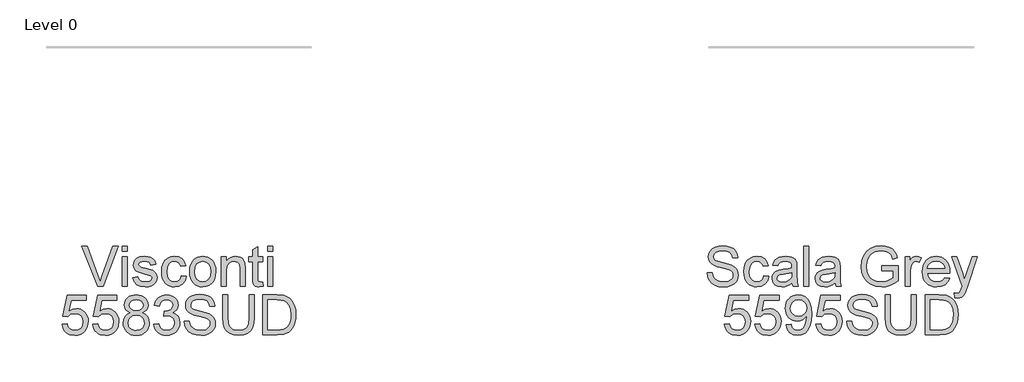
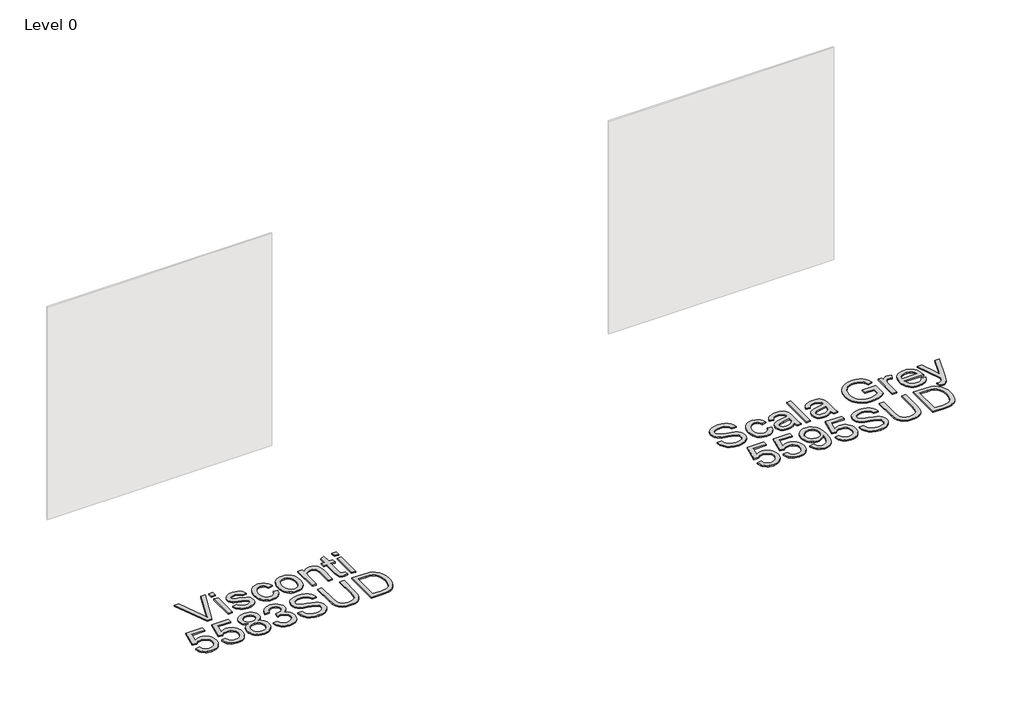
# One storey, part 7 of 12: 2 proxies.
"""IFC4 building model written with IfcOpenShell, lengths in millimetres."""

import ifcopenshell
import ifcopenshell.guid

model = None  # the IFC model being written
_history = None  # IfcOwnerHistory: only IFC2X3 demands one
_inside = {}  # id of a spatial element -> (the spatial element, [elements in it])
_under = {}  # id of a project, library or spatial element -> (it, [spatial elements below it])
_declared = {}  # id of a project -> (the project, [libraries it declares])
_typed = {}  # id of a type object -> (the type object, [elements of that type])
_made_of = {}  # id of a material, layer set ... -> (it, [elements and type objects made of it])


def new_model(schema):
    """Start an empty IFC model of exactly this schema.

    Asked for "IFC4X3", IfcOpenShell would pick the latest addendum, in which some entities
    have other attributes; the version numbers below select the first issue.
    IFC2X3 requires an IfcOwnerHistory on every rooted entity: one is made here for all.
    """
    global model, _history
    if schema == "IFC4X3":
        model = ifcopenshell.file(schema_version=(4, 3, 0, 0))
    else:
        model = ifcopenshell.file(schema=schema)
    _inside.clear()
    _under.clear()
    _declared.clear()
    _typed.clear()
    _made_of.clear()
    _history = None
    if model.schema == "IFC2X3":
        org = make("IfcOrganization", Name="unknown")
        user = make(
            "IfcPersonAndOrganization",
            ThePerson=make("IfcPerson", FamilyName="unknown"),
            TheOrganization=org,
        )
        app = make(
            "IfcApplication",
            ApplicationDeveloper=org,
            Version="unknown",
            ApplicationFullName="unknown",
            ApplicationIdentifier="unknown",
        )
        _history = make(
            "IfcOwnerHistory",
            OwningUser=user,
            OwningApplication=app,
            ChangeAction="ADDED",
            CreationDate=0,
        )
    return model


def make(cls, **values):
    """One entity of the class cls with the attributes given. An attribute that is None is left unset."""
    return model.create_entity(
        cls, **{name: value for name, value in values.items() if value is not None}
    )


def rooted(cls, **values):
    """An entity with a GlobalId (a new one), such as an element, a storey or a relation."""
    return make(cls, GlobalId=ifcopenshell.guid.new(), OwnerHistory=_history, **values)


def si_unit(unit_type, name, prefix=None):
    """IfcSIUnit, for example si_unit("LENGTHUNIT", "METRE", prefix="MILLI")."""
    return make("IfcSIUnit", UnitType=unit_type, Prefix=prefix, Name=name)


def assignment(units):
    """IfcUnitAssignment: the units of a project."""
    return None if units is None else make("IfcUnitAssignment", Units=units)


def point(xyz):
    """IfcCartesianPoint."""
    return None if xyz is None else make("IfcCartesianPoint", Coordinates=xyz)


def direction(xyz):
    """IfcDirection."""
    return None if xyz is None else make("IfcDirection", DirectionRatios=xyz)


def frame(location, z_axis=None, x_axis=None):
    """IfcAxis2Placement3D, a coordinate frame: its origin and axes. An axis left out is left unset."""
    return make(
        "IfcAxis2Placement3D",
        Location=point(location),
        Axis=direction(z_axis),
        RefDirection=direction(x_axis),
    )


def origin():
    """The frame at (0, 0, 0) with its axes left unset."""
    return frame((0.0, 0.0, 0.0))


def origin_with_axes():
    """The frame at (0, 0, 0) with the z axis (0, 0, 1) and the x axis (1, 0, 0) written out."""
    return frame((0.0, 0.0, 0.0), z_axis=(0.0, 0.0, 1.0), x_axis=(1.0, 0.0, 0.0))


def place(relative_to, where):
    """IfcLocalPlacement: puts the frame where relative to a parent placement (None: the world)."""
    return make(
        "IfcLocalPlacement", PlacementRelTo=relative_to, RelativePlacement=where
    )


def context(
    kind, dimensions, precision=None, world=None, true_north=None, identifier=None
):
    """IfcGeometricRepresentationContext, for example the 3D "Model" context."""
    return make(
        "IfcGeometricRepresentationContext",
        ContextIdentifier=identifier,
        ContextType=kind,
        CoordinateSpaceDimension=dimensions,
        Precision=precision,
        WorldCoordinateSystem=world,
        TrueNorth=true_north,
    )


def project(units=None, contexts=None):
    """IfcProject with its units and contexts."""
    return rooted(
        "IfcProject",
        Name="project",
        RepresentationContexts=contexts,
        UnitsInContext=assignment(units),
    )


def spatial(cls, under=None, at=None, **own):
    """A site, building, storey or space (cls), placed at a placement, below another one or the project."""
    s = rooted(cls, ObjectPlacement=at, **own)
    if under is not None:
        _under.setdefault(under.id(), (under, []))[1].append(s)
    return s


def polyline(points):
    """IfcPolyline through the points."""
    return make("IfcPolyline", Points=[point(p) for p in points])


def outline(outer, holes=None, kind="AREA"):
    """IfcArbitraryClosedProfileDef: a profile drawn as a closed curve; with holes, ...WithVoids."""
    if holes is None:
        return make("IfcArbitraryClosedProfileDef", ProfileType=kind, OuterCurve=outer)
    return make(
        "IfcArbitraryProfileDefWithVoids",
        ProfileType=kind,
        OuterCurve=outer,
        InnerCurves=holes,
    )


def extrude(swept, where, along, depth):
    """IfcExtrudedAreaSolid: the profile swept, set in the frame where, extruded along a direction by depth."""
    return make(
        "IfcExtrudedAreaSolid",
        SweptArea=swept,
        Position=where,
        ExtrudedDirection=direction(along),
        Depth=depth,
    )


def shape(context_of_items, identifier, shape_type, items):
    """IfcShapeRepresentation: the items that make up one representation, for example the "Body"."""
    return make(
        "IfcShapeRepresentation",
        ContextOfItems=context_of_items,
        RepresentationIdentifier=identifier,
        RepresentationType=shape_type,
        Items=items,
    )


def made_of(thing, what):
    """Note that an element or type object is made of a material, layer set ...; save() writes the relation."""
    if what is not None:
        _made_of.setdefault(what.id(), (what, []))[1].append(thing)
    return thing


def element(
    cls,
    number,
    at=None,
    inside=None,
    cuts=None,
    type_object=None,
    material=None,
    context=None,
    identifier="Body",
    shape_type=None,
    held_by="IfcProductDefinitionShape",
    body=None,
    shapes=None,
    **own,
):
    """One element of the class cls, such as IfcWall. Its Tag is "e" and its number.

    at: its placement. inside: the storey or other place that contains it. cuts: it is an
    opening in that element (IfcRelVoidsElement). A single representation is given by context,
    identifier, shape_type and body (its items); several are given by shapes. held_by: the class
    of the entity that holds the representations. save() writes the other relations.
    """
    e = rooted(cls, Tag="e%d" % number, ObjectPlacement=at, **own)
    if body is not None:
        shapes = [shape(context, identifier, shape_type, body)]
    if shapes is not None:
        e.Representation = make(held_by, Representations=shapes)
    if inside is not None:
        _inside.setdefault(inside.id(), (inside, []))[1].append(e)
    if cuts is not None:
        rooted(
            "IfcRelVoidsElement", RelatingBuildingElement=cuts, RelatedOpeningElement=e
        )
    if type_object is not None:
        _typed.setdefault(type_object.id(), (type_object, []))[1].append(e)
    return made_of(e, material)


def aggregate(whole, parts):
    """IfcRelAggregates: a whole, such as a stair, and the parts it consists of."""
    return rooted("IfcRelAggregates", RelatingObject=whole, RelatedObjects=parts)


def save(model, path):
    """Write the relations noted so far, then the file.

    IfcRelAggregates (storeys below a building ...), IfcRelContainedInSpatialStructure (elements
    in a storey), IfcRelDefinesByType, IfcRelAssociatesMaterial and IfcRelDeclares: one each for
    every whole, place, type object, material and project.
    """
    for whole, parts in _under.values():
        aggregate(whole, parts)
    for where, things in _inside.values():
        rooted(
            "IfcRelContainedInSpatialStructure",
            RelatedElements=things,
            RelatingStructure=where,
        )
    for kind, things in _typed.values():
        rooted("IfcRelDefinesByType", RelatedObjects=things, RelatingType=kind)
    for what, things in _made_of.values():
        rooted("IfcRelAssociatesMaterial", RelatedObjects=things, RelatingMaterial=what)
    for by, libraries in _declared.values():
        rooted("IfcRelDeclares", RelatingContext=by, RelatedDefinitions=libraries)
    model.write(path)


model = new_model("IFC4")

# Units and contexts
model_context = context("Model", 3, world=origin())
ifc_project = project(units=[si_unit("LENGTHUNIT", "METRE", prefix="MILLI")], contexts=[model_context])

# Site, building, storey
site = spatial("IfcSite", under=ifc_project)
building = spatial("IfcBuilding", under=site)
storey = spatial("IfcBuildingStorey", under=building, Name="Level 0", Elevation=0.0)

# Proxies
placement = place(None, origin())
element("IfcBuildingElementProxy", 1, Name="300mm Arial", ObjectType="300mm Arial", at=placement, inside=storey, context=model_context, shape_type="SweptSolid", body=[
    extrude(outline(polyline([(-63.2551547, -17012.860494), (-183.1846851, -16711.4915635), (-142.8648184, -16711.4915635), (-62.5929671, -16928.6155171), (-46.3325829, -16977.5438224), (-30.2929279, -16928.6155171), (50.1996526, -16711.4915635), (90.5195193, -16711.4915635), (-24.3332396, -17012.860494), (-63.2551547, -17012.860494)])), origin_with_axes(), (0.0, 0.0, 1.0), 10.0),
    extrude(outline(polyline([(120.8329957, -17012.860494), (120.8329957, -16791.5426857), (158.504112, -16791.5426857), (158.504112, -17012.860494), (120.8329957, -17012.860494)])), origin_with_axes(), (0.0, 0.0, 1.0), 10.0),
    extrude(outline(polyline([(120.8329957, -16749.1626798), (120.8329957, -16711.4915635), (158.504112, -16711.4915635), (158.504112, -16749.1626798), (120.8329957, -16749.1626798)])), origin_with_axes(), (0.0, 0.0, 1.0), 10.0),
    extrude(outline(polyline([(200.8841179, -16946.9360404), (238.5552342, -16942.2271509), (244.4965284, -16958.3403823), (255.9928407, -16970.1861825), (273.1177476, -16977.470246), (295.9448254, -16979.8982672), (318.4959917, -16977.6725811), (334.3517057, -16970.9955229), (343.7326966, -16961.3202265), (346.8596935, -16950.0998256), (343.7143025, -16940.4981055), (334.2781293, -16933.1772538), (295.503367, -16922.4350996), (238.7759634, -16904.0042116), (224.4193685, -16894.7427824), (214.0175051, -16882.4831149), (207.6991318, -16868.0069584), (205.5930074, -16852.0960621), (207.2852646, -16837.5003439), (212.3620361, -16824.0266659), (220.3634695, -16812.2084568), (230.8297123, -16802.5791455), (254.7788302, -16791.4323211), (287.1892339, -16786.8337961), (311.7085689, -16788.6824032), (333.0273305, -16794.2282242), (350.1706315, -16802.9286334), (362.1635845, -16814.2410048), (370.1098356, -16829.0022698), (375.1130308, -16848.0493601), (337.4419145, -16852.7582497), (332.6870397, -16840.9032524), (323.2784577, -16831.972917), (309.1241979, -16826.3719136), (290.1322899, -16824.5049125), (268.5008286, -16826.2891401), (254.0798544, -16831.6418232), (245.9680564, -16839.3673451), (243.2641237, -16848.2700893), (247.752284, -16859.2329728), (261.8053763, -16867.5471059), (294.2525682, -16875.5669334), (349.5452321, -16893.2988455), (364.1501473, -16901.7785255), (375.2233954, -16913.3852025), (382.2039562, -16928.1556646), (384.5308099, -16946.1267001), (381.799286, -16964.7047408), (373.6047146, -16982.1791356), (360.2597952, -16997.1795239), (342.0772276, -17008.3355454), (320.1146725, -17015.260924), (295.4297906, -17017.5693835), (257.4459746, -17013.1180114), (229.7260663, -16999.763895), (211.2216019, -16977.654187), (200.8841179, -16946.9360404)])), origin_with_axes(), (0.0, 0.0, 1.0), 10.0),
    extrude(outline(polyline([(568.1775018, -16932.8093718), (605.8486182, -16937.5182614), (595.3455872, -16971.0231141), (575.6087181, -16996.3425924), (548.4958151, -17012.2626857), (515.8646821, -17017.5693835), (494.7367593, -17015.7184772), (475.7931358, -17010.1657584), (459.0338117, -17000.9112269), (444.4587869, -16987.9548829), (432.6612711, -16971.5404481), (424.2344742, -16951.9116444), (419.178396, -16929.0684718), (417.4930366, -16903.0109302), (420.3717132, -16869.4876834), (429.0077431, -16840.4342028), (443.5390819, -16816.9725286), (464.1036854, -16800.2247008), (488.7057938, -16790.1815223), (515.3496473, -16786.8337961), (547.180637, -16791.4323211), (572.628874, -16805.2278959), (590.885018, -16827.4847566), (601.1397286, -16857.4671392), (563.4686123, -16862.1760288), (556.6352042, -16845.7409006), (545.9942175, -16833.9594797), (532.1342634, -16826.8685543), (515.6439529, -16824.5049125), (491.2993619, -16829.1586197), (471.9763601, -16843.1197414), (459.3672047, -16867.1424357), (455.1641529, -16901.9808606), (459.2752342, -16937.2883351), (471.6084781, -16961.3938029), (490.581992, -16975.2721511), (514.6138833, -16979.8982672), (534.1208261, -16977.0103936), (550.1144959, -16968.3467726), (561.748764, -16953.6866751), (568.1775018, -16932.8093718)])), origin_with_axes(), (0.0, 0.0, 1.0), 10.0),
    extrude(outline(polyline([(629.3930658, -16902.2015898), (631.4302124, -16873.5389839), (637.541652, -16848.8403064), (647.7273848, -16828.1055575), (661.9874106, -16811.334737), (676.3440055, -16800.6155754), (692.1905224, -16792.9590314), (709.5269614, -16788.3651049), (728.3533225, -16786.8337961), (749.136356, -16788.698498), (767.9282282, -16794.2926036), (784.728939, -16803.6161129), (799.5384886, -16816.669026), (811.6257114, -16833.0098843), (820.259442, -16852.1972296), (825.4396803, -16874.2310619), (827.1664265, -16899.1113811), (824.1130059, -16937.1687735), (814.9527442, -16966.1394806), (799.9523559, -16987.8353213), (779.3785553, -17004.0681143), (754.9419937, -17014.1940662), (728.3533225, -17017.5693835), (707.2667864, -17015.7115794), (688.3001703, -17010.1381672), (671.4534742, -17000.8491468), (656.7266981, -16987.8445183), (644.768234, -16971.3450108), (636.2264739, -16951.5713536), (631.1014179, -16928.5235466), (629.3930658, -16902.2015898)]), holes=[polyline([(667.0641821, -16902.1280134), (671.4235838, -16936.2214773), (684.5017887, -16960.5108861), (704.1834755, -16975.0514219), (728.3533225, -16979.8982672), (752.412805, -16975.0238308), (772.0577036, -16960.4005215), (785.1359085, -16935.789216), (789.4953101, -16900.950791), (785.1083174, -16867.8506085), (771.947339, -16843.8922936), (752.2748493, -16829.3517577), (728.3533225, -16824.5049125), (704.1834755, -16829.3333636), (684.5017887, -16843.8187172), (671.4235838, -16868.0529436), (667.0641821, -16902.1280134)])]), origin_with_axes(), (0.0, 0.0, 1.0), 10.0),
    extrude(outline(polyline([(869.5464323, -17012.860494), (869.5464323, -16791.5426857), (907.2175486, -16791.5426857), (907.2175486, -16822.4447733), (920.3049506, -16806.8649708), (936.0227088, -16795.7365404), (954.3708233, -16789.0594822), (975.3492941, -16786.8337961), (993.9181378, -16788.6272209), (1010.923483, -16794.0074951), (1025.105334, -16802.303234), (1035.2036947, -16812.8430532), (1046.497672, -16840.5445674), (1048.4842347, -16876.964885), (1048.4842347, -17012.860494), (1010.8131184, -17012.860494), (1010.8131184, -16882.0416565), (1006.4721109, -16848.7115477), (1000.4664373, -16838.7879309), (991.1314317, -16831.0900002), (979.1660698, -16826.1511844), (965.2693274, -16824.5049125), (943.2056048, -16828.2021265), (924.3976378, -16839.2937687), (916.8813488, -16848.3482643), (911.5125709, -16860.7228949), (907.2175486, -16895.4325611), (907.2175486, -17012.860494), (869.5464323, -17012.860494)])), origin_with_axes(), (0.0, 0.0, 1.0), 10.0),
    extrude(outline(polyline([(1180.3331418, -16981.4433716), (1185.0420314, -17013.96414), (1156.8622705, -17017.5693835), (1138.7808705, -17016.005885), (1125.2979953, -17011.3153896), (1115.7698517, -17004.0865084), (1109.5526459, -16994.9078526), (1106.1313434, -16979.1441091), (1104.9909092, -16952.1599648), (1104.9909092, -16829.213802), (1076.737572, -16829.213802), (1076.737572, -16791.5426857), (1104.9909092, -16791.5426857), (1104.9909092, -16737.758338), (1142.6620255, -16715.6118419), (1142.6620255, -16791.5426857), (1180.3331418, -16791.5426857), (1180.3331418, -16829.213802), (1142.6620255, -16829.213802), (1142.6620255, -16951.0563188), (1144.6485883, -16970.4804881), (1151.0865232, -16977.3598814), (1163.9256048, -16979.8982672), (1180.3331418, -16981.4433716)])), origin_with_axes(), (0.0, 0.0, 1.0), 10.0),
    extrude(outline(polyline([(1218.0042581, -16749.1626798), (1218.0042581, -16711.4915635), (1255.6753744, -16711.4915635), (1255.6753744, -16749.1626798), (1218.0042581, -16749.1626798)])), origin_with_axes(), (0.0, 0.0, 1.0), 10.0),
    extrude(outline(polyline([(1218.0042581, -17012.860494), (1218.0042581, -16791.5426857), (1255.6753744, -16791.5426857), (1255.6753744, -17012.860494), (1218.0042581, -17012.860494)])), origin_with_axes(), (0.0, 0.0, 1.0), 10.0),
    extrude(outline(polyline([(-333.5748447, -17298.7338254), (-295.9037284, -17294.0249358), (-288.9875469, -17316.6404815), (-276.9210175, -17332.8364863), (-259.7593224, -17342.5761621), (-237.557644, -17345.8227207), (-210.5551055, -17341.3069693), (-190.3215958, -17327.7597148), (-177.6848493, -17306.7444558), (-173.4726004, -17279.8246908), (-177.4181348, -17254.4776213), (-189.254738, -17235.0902402), (-209.0743805, -17222.7845875), (-236.9690328, -17218.6827032), (-255.2435709, -17220.3197781), (-270.0416242, -17225.2310027), (-291.1948389, -17242.2271509), (-328.8659552, -17237.5182614), (-295.9037284, -17082.1249066), (-149.9281527, -17082.1249066), (-149.9281527, -17119.7960229), (-265.4430992, -17119.7960229), (-281.5563306, -17202.790201), (-254.6457627, -17186.4562404), (-226.4476077, -17181.0115869), (-208.1017925, -17182.6992456), (-191.2504978, -17187.7622215), (-175.8937238, -17196.2005148), (-162.0314704, -17208.0141254), (-150.5558514, -17222.4810848), (-142.3589807, -17238.8794248), (-137.4408583, -17257.2091452), (-135.8014841, -17277.470246), (-141.7059901, -17315.1413624), (-149.0866227, -17331.9351754), (-159.4195082, -17347.3678251), (-175.0728871, -17363.1729553), (-193.3382282, -17374.4623341), (-214.2155314, -17381.2359613), (-237.7047968, -17383.4938371), (-274.7045285, -17377.6904986), (-290.3831992, -17370.4363255), (-304.1810733, -17360.2804832), (-315.6612908, -17347.7288093), (-324.3869919, -17333.2871418), (-333.5748447, -17298.7338254)])), origin_with_axes(), (0.0, 0.0, 1.0), 10.0),
    extrude(outline(polyline([(-102.8392574, -17298.7338254), (-65.1681411, -17294.0249358), (-58.2519595, -17316.6404815), (-46.1854301, -17332.8364863), (-29.023735, -17342.5761621), (-6.8220566, -17345.8227207), (20.1804818, -17341.3069693), (40.4139916, -17327.7597148), (53.0507381, -17306.7444558), (57.2629869, -17279.8246908), (53.3174525, -17254.4776213), (41.4808494, -17235.0902402), (21.6612069, -17222.7845875), (-6.2334454, -17218.6827032), (-24.5079835, -17220.3197781), (-39.3060368, -17225.2310027), (-60.4592515, -17242.2271509), (-98.1303678, -17237.5182614), (-65.1681411, -17082.1249066), (80.8074346, -17082.1249066), (80.8074346, -17119.7960229), (-34.7075119, -17119.7960229), (-50.8207432, -17202.790201), (-23.9101753, -17186.4562404), (4.2879796, -17181.0115869), (22.6337949, -17182.6992456), (39.4850895, -17187.7622215), (54.8418636, -17196.2005148), (68.704117, -17208.0141254), (80.179736, -17222.4810848), (88.3766067, -17238.8794248), (93.2947291, -17257.2091452), (94.9341033, -17277.470246), (89.0295972, -17315.1413624), (81.6489647, -17331.9351754), (71.3160792, -17347.3678251), (55.6627003, -17363.1729553), (37.3973592, -17374.4623341), (16.520056, -17381.2359613), (-6.9692094, -17383.4938371), (-43.9689411, -17377.6904986), (-59.6476119, -17370.4363255), (-73.4454859, -17360.2804832), (-84.9257035, -17347.7288093), (-93.6514045, -17333.2871418), (-102.8392574, -17298.7338254)])), origin_with_axes(), (0.0, 0.0, 1.0), 10.0),
    extrude(outline(polyline([(182.7843237, -17212.7965913), (162.6151933, -17202.8637774), (148.4609335, -17189.3992964), (140.1008152, -17172.6790597), (137.3141091, -17152.9789789), (138.8316223, -17137.6153071), (143.384162, -17123.5300252), (150.9717282, -17110.7231332), (161.5943208, -17099.1946312), (174.7415036, -17089.6664875), (189.9028403, -17082.8606706), (226.2679755, -17077.4160171), (262.8538399, -17082.9894293), (278.1807236, -17089.9561946), (291.5302415, -17099.709666), (302.3459721, -17111.4634957), (310.071494, -17124.4313361), (314.7068072, -17138.613187), (316.2519115, -17154.0090485), (313.5019936, -17173.0745329), (305.2522399, -17189.509661), (291.4106798, -17202.8913686), (271.8853429, -17212.7965913), (295.0711057, -17224.7435591), (311.9476922, -17242.3375155), (322.239191, -17264.732332), (325.6696906, -17291.0818799), (323.9682364, -17309.8714528), (318.8638737, -17327.0975272), (310.3566026, -17342.7601031), (298.446423, -17356.8591806), (283.7587343, -17368.5118428), (266.918936, -17376.8351729), (247.927028, -17381.829171), (226.7830103, -17383.4938371), (205.6389926, -17381.8222732), (186.6470846, -17376.8075818), (169.8072863, -17368.4497627), (155.1195977, -17356.748816), (143.2094181, -17342.5508703), (134.7021469, -17326.702054), (129.5977842, -17309.2023674), (127.89633, -17290.0518103), (131.4647854, -17262.6813898), (142.1701514, -17240.1670117), (159.4606052, -17223.2812282), (182.7843237, -17212.7965913)]), holes=[polyline([(165.5674463, -17288.7274351), (171.8582284, -17317.0911369), (180.5678347, -17329.2588339), (194.1150891, -17338.317928), (210.3386851, -17343.9465226), (227.0773159, -17345.8227207), (252.718691, -17341.8771864), (271.9589193, -17330.0405832), (283.9886606, -17312.1155329), (287.9985743, -17289.9046575), (283.8599019, -17267.316703), (271.4438845, -17248.9961796), (251.7621978, -17236.8560738), (225.8265171, -17232.8093718), (200.543827, -17236.8008915), (181.4967367, -17248.7754504), (169.5497689, -17266.7464859), (165.5674463, -17288.7274351)]), polyline([(174.9852254, -17154.0826249), (178.3237545, -17170.52695), (188.3393418, -17183.6603373), (204.7376818, -17192.268776), (227.2244687, -17195.1382555), (249.1870238, -17192.2871701), (265.3370434, -17183.7339137), (275.2698573, -17171.0419848), (278.5807952, -17155.774882), (275.1594927, -17139.9283651), (264.895585, -17126.822569), (248.5248362, -17118.0209923), (226.7830103, -17115.0871334), (204.9032287, -17117.9566129), (188.560071, -17126.5650516), (178.3789368, -17139.1834041), (174.9852254, -17154.0826249)])]), origin_with_axes(), (0.0, 0.0, 1.0), 10.0),
    extrude(outline(polyline([(358.6319174, -17298.7338254), (396.3030337, -17294.0249358), (404.7367284, -17317.6981422), (417.0883664, -17333.6826149), (433.964953, -17342.7876943), (455.9734933, -17345.8227207), (481.7988094, -17341.6472601), (501.7380135, -17329.1208782), (514.4851246, -17310.4324728), (518.7341617, -17287.7709419), (514.5219128, -17266.2590422), (501.8851663, -17248.8122386), (482.7553026, -17237.2515469), (459.0637021, -17233.397983), (432.6497748, -17237.5182614), (436.8436296, -17199.8471451), (442.8768943, -17200.2886035), (465.4464547, -17197.5846708), (485.6247821, -17189.4728728), (499.8618153, -17175.7508744), (504.6074931, -17156.2163404), (501.1677964, -17139.9467592), (490.8487065, -17126.7489926), (475.1033571, -17118.0025982), (455.3848821, -17115.0871334), (435.629619, -17118.0301893), (419.4795994, -17126.8593572), (407.6889814, -17141.574637), (401.0119232, -17162.1760288), (363.3408069, -17157.4671392), (374.4324491, -17123.6403898), (394.1693181, -17098.3852908), (421.1718566, -17082.6583355), (454.0605069, -17077.4160171), (477.7429104, -17080.0003881), (499.4939333, -17087.7535011), (517.8328508, -17099.9855775), (531.2789377, -17116.0068384), (539.5286915, -17134.4653175), (542.2786094, -17154.0090485), (539.6666472, -17172.2192072), (531.8307607, -17188.7371088), (518.8813145, -17202.8085951), (500.9286731, -17213.6795081), (524.509909, -17223.2076518), (541.9843038, -17239.4312477), (552.8000344, -17261.4673793), (556.405278, -17288.4331295), (554.6026562, -17307.5445992), (549.1947909, -17325.1477526), (540.181682, -17341.2425899), (527.5633296, -17355.829111), (512.1904607, -17367.9324287), (494.9138025, -17376.5776555), (475.733355, -17381.7647917), (454.6491181, -17383.4938371), (435.5928308, -17382.0177105), (418.2288006, -17377.589331), (402.5570276, -17370.2086985), (388.5775118, -17359.875813), (376.8558717, -17347.1976797), (367.957726, -17332.781304), (361.8830745, -17316.6266859), (358.6319174, -17298.7338254)])), origin_with_axes(), (0.0, 0.0, 1.0), 10.0),
    extrude(outline(polyline([(589.3675048, -17275.1893777), (627.0386211, -17275.1893777), (631.3612345, -17296.0942721), (639.1787269, -17312.8972822), (651.3740151, -17326.2330045), (668.8300157, -17336.7360355), (690.1671714, -17343.5510494), (714.0059247, -17345.8227207), (734.9935926, -17344.1028724), (753.3692982, -17338.9433274), (768.259322, -17330.7763471), (778.7899441, -17320.0341929), (785.0531351, -17307.700949), (787.1408654, -17294.7606998), (785.5773669, -17282.1515444), (780.8868715, -17271.2530403), (771.3587278, -17261.9548229), (755.2822846, -17254.1465276), (700.4310791, -17239.7623415), (664.4246288, -17230.2433949), (641.3860189, -17221.1843008), (622.6332342, -17208.510766), (609.3434971, -17193.1516928), (601.4248372, -17175.4381747), (598.7852838, -17155.7013056), (602.0502366, -17133.637583), (611.8450947, -17113.0637824), (627.9123408, -17095.6261758), (649.9944576, -17082.9710352), (676.5003553, -17075.2731044), (705.8389444, -17072.7071275), (737.6239488, -17075.3926661), (765.4358277, -17083.4492818), (788.2812996, -17096.7114277), (805.1670831, -17115.013557), (815.8540551, -17137.2152354), (820.1030921, -17162.1760288), (782.4319758, -17162.1760288), (775.5157943, -17139.6984389), (761.0948201, -17123.4748429), (738.5620479, -17113.6523936), (707.3104724, -17110.3782438), (675.3231329, -17113.6156054), (653.3789719, -17123.3276901), (640.6870431, -17137.6199056), (636.4564002, -17154.5976597), (639.4546384, -17169.0738162), (648.4493532, -17180.7172813), (669.7129325, -17191.1283418), (709.9592228, -17201.7601314), (751.4931, -17211.8584922), (776.6194403, -17220.669266), (798.0945518, -17234.3360821), (813.076546, -17251.2034716), (821.8781228, -17271.0874934), (824.8119817, -17293.8042066), (821.4366644, -17317.0267576), (811.3107125, -17338.869751), (794.8479932, -17357.668521), (772.4623738, -17371.7584014), (745.5426088, -17380.5599781), (715.4774527, -17383.4938371), (678.5696915, -17380.3300519), (648.1918358, -17370.8386964), (623.9943976, -17354.9829824), (605.627889, -17332.7261217), (593.837271, -17305.6132187), (589.3675048, -17275.1893777)])), origin_with_axes(), (0.0, 0.0, 1.0), 10.0),
    extrude(outline(polyline([(1079.0920167, -17077.4160171), (1116.7631331, -17077.4160171), (1116.7631331, -17251.277048), (1114.2063532, -17291.9923878), (1106.5360136, -17323.3451308), (1092.2070099, -17347.533372), (1069.6742377, -17366.7552063), (1038.8825147, -17379.3091794), (999.7766586, -17383.4938371), (961.5261281, -17379.8518053), (930.9459373, -17368.92571), (908.026889, -17351.0926303), (892.7597862, -17326.7296452), (884.1789387, -17294.052527), (881.3186561, -17251.277048), (881.3186561, -17077.4160171), (918.9897724, -17077.4160171), (918.9897724, -17249.9526728), (920.8475765, -17283.8070134), (926.4209887, -17307.3790523), (936.5193495, -17323.7038158), (951.9519992, -17335.8163305), (972.0751444, -17343.3211232), (996.2449914, -17345.8227207), (1034.5599012, -17340.8747079), (1048.9027005, -17334.6896919), (1060.0357294, -17326.0306694), (1068.3728551, -17313.8537754), (1074.3279449, -17297.1151446), (1079.0920167, -17249.9526728), (1079.0920167, -17077.4160171)])), origin_with_axes(), (0.0, 0.0, 1.0), 10.0),
    extrude(outline(polyline([(1182.6875866, -17378.7849475), (1182.6875866, -17077.4160171), (1286.6510384, -17077.4160171), (1340.4353861, -17081.7570246), (1364.4580804, -17090.12634), (1384.7283783, -17103.3149095), (1405.5688934, -17126.270746), (1420.4129319, -17154.8183889), (1429.2972821, -17188.406015), (1432.2587321, -17226.4818015), (1430.2537752, -17258.8278259), (1424.2389046, -17287.2926953), (1415.0786429, -17311.5269217), (1403.6375129, -17331.1810173), (1390.4673375, -17346.6964405), (1376.1199397, -17358.5146496), (1359.6480233, -17367.2794381), (1340.1042923, -17373.6345996), (1291.6542336, -17378.7849475), (1182.6875866, -17378.7849475)]), holes=[polyline([(1220.3587029, -17341.1138312), (1287.0189204, -17341.1138312), (1314.591676, -17339.7526678), (1335.5057674, -17335.6691777), (1351.287905, -17329.1024841), (1363.464799, -17320.2917103), (1376.552201, -17303.9853408), (1386.3838473, -17282.8781114), (1392.5366737, -17256.8780514), (1394.5876158, -17225.8931903), (1390.568505, -17184.8375597), (1378.5111726, -17154.5240833), (1360.696487, -17133.7019623), (1339.4053165, -17121.1203981), (1317.737067, -17116.5954496), (1285.9888508, -17115.0871334), (1220.3587029, -17115.0871334), (1220.3587029, -17341.1138312)])]), origin_with_axes(), (0.0, 0.0, 1.0), 10.0),
])
element("IfcBuildingElementProxy", 2, Name="300mm Arial", ObjectType="300mm Arial", at=placement, inside=storey, context=model_context, shape_type="SweptSolid", body=[
    extrude(outline(polyline([(4536.930693, -16909.2649241), (4574.6018093, -16909.2649241), (4578.9244227, -16930.1698185), (4586.7419151, -16946.9728286), (4598.9372033, -16960.308551), (4616.3932039, -16970.8115819), (4637.7303596, -16977.6265959), (4661.5691129, -16979.8982672), (4682.5567808, -16978.1784189), (4700.9324864, -16973.0188739), (4715.8225102, -16964.8518936), (4726.3531323, -16954.1097394), (4732.6163233, -16941.7764955), (4734.7040536, -16928.8362463), (4733.1405551, -16916.2270909), (4728.4500597, -16905.3285868), (4718.921916, -16896.0303694), (4702.8454728, -16888.222074), (4647.9942673, -16873.837888), (4611.987817, -16864.3189414), (4588.9492071, -16855.2598472), (4570.1964224, -16842.5863125), (4556.9066853, -16827.2272392), (4548.9880254, -16809.5137211), (4546.348472, -16789.7768521), (4549.6134247, -16767.7131294), (4559.4082829, -16747.1393289), (4575.475529, -16729.7017223), (4597.5576458, -16717.0465817), (4624.0635435, -16709.3486509), (4653.4021326, -16706.782674), (4685.187137, -16709.4682126), (4712.9990159, -16717.5248283), (4735.8444878, -16730.7869742), (4752.7302713, -16749.0891034), (4763.4172433, -16771.2907818), (4767.6662803, -16796.2515752), (4729.995164, -16796.2515752), (4723.0789825, -16773.7739853), (4708.6580083, -16757.5503893), (4686.1252361, -16747.7279401), (4654.8736606, -16744.4537903), (4622.8863211, -16747.6911519), (4600.9421601, -16757.4032365), (4588.2502313, -16771.695452), (4584.0195883, -16788.6732061), (4587.0178266, -16803.1493626), (4596.0125414, -16814.7928278), (4617.2761207, -16825.2038882), (4657.522411, -16835.8356779), (4699.0562882, -16845.9340387), (4724.1826285, -16854.7448125), (4745.65774, -16868.4116286), (4760.6397342, -16885.2790181), (4769.441311, -16905.1630399), (4772.3751699, -16927.8797531), (4768.9998526, -16951.102304), (4758.8739007, -16972.9452975), (4742.4111814, -16991.7440675), (4720.025562, -17005.8339479), (4693.105797, -17014.6355246), (4663.0406409, -17017.5693835), (4626.1328797, -17014.4055984), (4595.755024, -17004.9142429), (4571.5575858, -16989.0585289), (4553.1910772, -16966.8016682), (4541.4004592, -16939.6887651), (4536.930693, -16909.2649241)])), origin_with_axes(), (0.0, 0.0, 1.0), 10.0),
    extrude(outline(polyline([(4965.4396409, -16932.8093718), (5003.1107573, -16937.5182614), (4992.6077263, -16971.0231141), (4972.8708573, -16996.3425924), (4945.7579542, -17012.2626857), (4913.1268212, -17017.5693835), (4891.9988984, -17015.7184772), (4873.0552749, -17010.1657584), (4856.2959508, -17000.9112269), (4841.720926, -16987.9548829), (4829.9234102, -16971.5404481), (4821.4966133, -16951.9116444), (4816.4405351, -16929.0684718), (4814.7551757, -16903.0109302), (4817.6338523, -16869.4876834), (4826.2698822, -16840.4342028), (4840.801221, -16816.9725286), (4861.3658245, -16800.2247008), (4885.9679329, -16790.1815223), (4912.6117864, -16786.8337961), (4944.4427761, -16791.4323211), (4969.8910131, -16805.2278959), (4988.1471571, -16827.4847566), (4998.4018677, -16857.4671392), (4960.7307514, -16862.1760288), (4953.8973433, -16845.7409006), (4943.2563566, -16833.9594797), (4929.3964025, -16826.8685543), (4912.906092, -16824.5049125), (4888.561501, -16829.1586197), (4869.2384992, -16843.1197414), (4856.6293438, -16867.1424357), (4852.426292, -16901.9808606), (4856.5373733, -16937.2883351), (4868.8706172, -16961.3938029), (4887.8441311, -16975.2721511), (4911.8760225, -16979.8982672), (4931.3829652, -16977.0103936), (4947.376635, -16968.3467726), (4959.0109031, -16953.6866751), (4965.4396409, -16932.8093718)])), origin_with_axes(), (0.0, 0.0, 1.0), 10.0),
    extrude(outline(polyline([(5177.3396702, -16984.6071568), (5159.3410436, -17000.0398064), (5140.808988, -17010.1381672), (5121.3204394, -17015.7115794), (5100.4523332, -17017.5693835), (5068.9708314, -17013.0996173), (5045.7482805, -16999.6903186), (5031.4284738, -16979.3280501), (5026.6552049, -16953.9993748), (5028.4578267, -16938.3827841), (5033.8656921, -16924.2009331), (5042.2074163, -16912.0608273), (5052.8116148, -16902.5694718), (5079.1887539, -16890.2086368), (5111.7830986, -16884.5432541), (5150.3003435, -16878.5835657), (5177.118941, -16871.5938078), (5177.3396702, -16863.2060983), (5174.7461021, -16846.3938912), (5166.9653979, -16835.3942195), (5149.5645795, -16827.2272392), (5125.3211561, -16824.5049125), (5102.8803543, -16826.3167313), (5087.2085814, -16831.7521878), (5076.5216094, -16841.8045633), (5069.0352108, -16857.4671392), (5031.3640945, -16852.7582497), (5037.9031969, -16832.156858), (5047.6612669, -16815.9700502), (5061.5488122, -16803.590821), (5080.4763408, -16794.4121652), (5103.6253154, -16788.7283884), (5130.1771984, -16786.8337961), (5155.6438295, -16788.5076592), (5175.831354, -16793.5292485), (5191.0524715, -16801.0800264), (5201.6198819, -16810.3414556), (5208.6280339, -16821.7917827), (5213.1713765, -16835.9092543), (5215.0107865, -16868.8714811), (5215.0107865, -16915.7396473), (5216.9237729, -16981.1858542), (5224.4285656, -17012.860494), (5186.7574492, -17012.860494), (5177.3396702, -16984.6071568)]), holes=[polyline([(5177.3396702, -16909.2649241), (5116.5655646, -16920.8164188), (5084.1551608, -16926.9232599), (5069.4766692, -16936.8560738), (5064.3263213, -16951.3506244), (5067.1314215, -16962.5526311), (5075.5467221, -16971.7312869), (5089.3882822, -16977.8565221), (5108.4721607, -16979.8982672), (5128.7056704, -16977.64499), (5146.5847354, -16970.8851583), (5161.079286, -16960.9247533), (5171.1592527, -16949.069756), (5175.6290189, -16936.8560738), (5177.118941, -16919.933502), (5177.3396702, -16909.2649241)])]), origin_with_axes(), (0.0, 0.0, 1.0), 10.0),
    extrude(outline(polyline([(5266.8085714, -17012.860494), (5266.8085714, -16711.4915635), (5304.4796877, -16711.4915635), (5304.4796877, -17012.860494), (5266.8085714, -17012.860494)])), origin_with_axes(), (0.0, 0.0, 1.0), 10.0),
    extrude(outline(polyline([(5502.2530483, -16984.6071568), (5484.2544217, -17000.0398064), (5465.7223662, -17010.1381672), (5446.2338175, -17015.7115794), (5425.3657113, -17017.5693835), (5393.8842096, -17013.0996173), (5370.6616586, -16999.6903186), (5356.341852, -16979.3280501), (5351.5685831, -16953.9993748), (5353.3712049, -16938.3827841), (5358.7790702, -16924.2009331), (5367.1207944, -16912.0608273), (5377.7249929, -16902.5694718), (5404.102132, -16890.2086368), (5436.6964768, -16884.5432541), (5475.2137217, -16878.5835657), (5502.0323191, -16871.5938078), (5502.2530483, -16863.2060983), (5499.6594802, -16846.3938912), (5491.878776, -16835.3942195), (5474.4779577, -16827.2272392), (5450.2345342, -16824.5049125), (5427.7937325, -16826.3167313), (5412.1219595, -16831.7521878), (5401.4349875, -16841.8045633), (5393.9485889, -16857.4671392), (5356.2774726, -16852.7582497), (5362.8165751, -16832.156858), (5372.574645, -16815.9700502), (5386.4621903, -16803.590821), (5405.389719, -16794.4121652), (5428.5386935, -16788.7283884), (5455.0905765, -16786.8337961), (5480.5572076, -16788.5076592), (5500.7447321, -16793.5292485), (5515.9658497, -16801.0800264), (5526.53326, -16810.3414556), (5533.541412, -16821.7917827), (5538.0847546, -16835.9092543), (5539.9241646, -16868.8714811), (5539.9241646, -16915.7396473), (5541.837151, -16981.1858542), (5549.3419437, -17012.860494), (5511.6708274, -17012.860494), (5502.2530483, -16984.6071568)]), holes=[polyline([(5502.2530483, -16909.2649241), (5441.4789427, -16920.8164188), (5409.0685389, -16926.9232599), (5394.3900473, -16936.8560738), (5389.2396994, -16951.3506244), (5392.0447996, -16962.5526311), (5400.4601002, -16971.7312869), (5414.3016603, -16977.8565221), (5433.3855388, -16979.8982672), (5453.6190485, -16977.64499), (5471.4981135, -16970.8851583), (5485.9926641, -16960.9247533), (5496.0726308, -16949.069756), (5500.542397, -16936.8560738), (5502.0323191, -16919.933502), (5502.2530483, -16909.2649241)])]), origin_with_axes(), (0.0, 0.0, 1.0), 10.0),
    extrude(outline(polyline([(5855.4197637, -16895.1382555), (5855.4197637, -16857.4671392), (5977.8508917, -16857.4671392), (5977.8508917, -16970.1126061), (5948.0984353, -16990.8059684), (5917.4078799, -17005.6500069), (5885.8528017, -17014.5895394), (5853.5067773, -17017.5693835), (5811.2463331, -17012.8329028), (5773.050985, -16998.6234608), (5741.3211629, -16975.437698), (5718.4572969, -16943.7722553), (5704.6341309, -16905.7884393), (5700.0264089, -16863.6475567), (5704.6157368, -16821.2031715), (5718.3837205, -16781.7202364), (5740.7601428, -16748.6016598), (5771.1747868, -16725.2503502), (5808.2205037, -16711.399593), (5850.4901449, -16706.782674), (5881.5209912, -16709.4590155), (5909.4248406, -16717.4880401), (5932.923303, -16730.2903335), (5950.7379886, -16747.2864817), (5963.9173611, -16769.295022), (5973.5098841, -16797.134492), (5938.7818238, -16806.9201531), (5931.0287107, -16787.0637224), (5921.6017346, -16772.0817281), (5909.130535, -16760.7877509), (5892.2447514, -16751.9953712), (5872.1124092, -16746.3391855), (5849.9015338, -16744.4537903), (5823.9014737, -16746.4863383), (5801.6722042, -16752.5839824), (5783.2964985, -16761.9833674), (5768.8571302, -16773.9211381), (5749.4697491, -16802.9470275), (5740.6405812, -16831.3843058), (5737.6975252, -16862.1024524), (5741.2383894, -16898.1272967), (5751.860982, -16927.7693885), (5769.2434063, -16950.8171955), (5793.0637655, -16967.0591856), (5820.9400237, -16976.6884968), (5850.4901449, -16979.8982672), (5876.5821755, -16977.4794431), (5902.0304125, -16970.2229707), (5924.1309233, -16960.2257775), (5940.1797754, -16949.5847908), (5940.1797754, -16895.1382555), (5855.4197637, -16895.1382555)])), origin_with_axes(), (0.0, 0.0, 1.0), 10.0),
    extrude(outline(polyline([(6034.3575661, -17012.860494), (6034.3575661, -16791.5426857), (6067.3197929, -16791.5426857), (6067.3197929, -16824.2841833), (6079.4966869, -16805.3014723), (6090.7170878, -16794.1178596), (6101.9742768, -16788.654812), (6114.2615355, -16786.8337961), (6133.0235172, -16789.7400639), (6152.0798046, -16798.4588672), (6139.4982404, -16832.2304343), (6126.2544885, -16826.4362929), (6113.0107367, -16824.5049125), (6101.7627447, -16826.3627165), (6091.7103692, -16831.9361288), (6083.5893741, -16840.8020848), (6078.1355236, -16852.5375205), (6073.5553927, -16873.5803706), (6072.0286824, -16896.5362071), (6072.0286824, -17012.860494), (6034.3575661, -17012.860494)])), origin_with_axes(), (0.0, 0.0, 1.0), 10.0),
    extrude(outline(polyline([(6330.5761487, -16946.9360404), (6367.511501, -16951.64493), (6354.2033698, -16979.4752029), (6332.9673816, -17000.2789297), (6304.281783, -17013.2467701), (6268.6248207, -17017.5693835), (6245.2505184, -17015.7046817), (6224.4237989, -17010.1105761), (6206.1446623, -17000.7870668), (6190.4131085, -16987.7341537), (6177.7625664, -16971.3151204), (6168.7264649, -16951.8932503), (6163.304804, -16929.4685435), (6161.4975837, -16904.0409998), (6163.3231981, -16877.7512327), (6168.8000413, -16854.5792656), (6177.9281133, -16834.5250983), (6190.7074141, -16817.5887309), (6206.3975812, -16804.133447), (6224.258252, -16794.5225298), (6244.2894267, -16788.7559796), (6266.4911051, -16786.8337961), (6287.9777129, -16788.751381), (6307.40878, -16794.5041357), (6324.7843065, -16804.0920602), (6340.1042923, -16817.5151545), (6352.6099809, -16834.4147337), (6361.5426156, -16854.4321128), (6366.9021964, -16877.5672917), (6368.6887234, -16903.8202706), (6368.4679942, -16913.9738137), (6199.1687, -16913.9738137), (6205.6894083, -16942.1719686), (6220.8369495, -16962.902119), (6242.6983371, -16975.6492302), (6269.3605847, -16979.8982672), (6289.4101534, -16977.9300985), (6306.295937, -16972.0255925), (6320.0179354, -16961.8168672), (6330.5761487, -16946.9360404)]), holes=[polyline([(6199.1687, -16876.3026974), (6331.017607, -16876.3026974), (6325.9224414, -16856.4002814), (6315.9344452, -16842.1632482), (6293.9718901, -16828.9194964), (6266.3439523, -16824.5049125), (6240.9508976, -16828.0273826), (6219.9540327, -16838.5947929), (6205.3583145, -16855.0667092), (6199.1687, -16876.3026974)])]), origin_with_axes(), (0.0, 0.0, 1.0), 10.0),
    extrude(outline(polyline([(6406.3598397, -17097.6205057), (6401.6509501, -17061.3473409), (6420.7808139, -17064.6582789), (6438.6598788, -17060.5012124), (6449.6227623, -17048.9129295), (6459.9234582, -17021.1746271), (6462.8665141, -17012.0511536), (6382.815392, -16791.5426857), (6422.5466474, -16791.5426857), (6465.0002297, -16914.4152721), (6479.7890859, -16963.5643066), (6494.5779421, -16920.1542312), (6538.2087467, -16791.5426857), (6577.6456966, -16791.5426857), (6500.6112068, -17018.1579947), (6480.5984263, -17067.3070293), (6470.3529127, -17082.9971964), (6458.7462358, -17093.8681093), (6445.2633606, -17100.2140737), (6429.3892526, -17102.3293952), (6406.3598397, -17097.6205057)])), origin_with_axes(), (0.0, 0.0, 1.0), 10.0),
    extrude(outline(polyline([(4666.4251553, -17298.7338254), (4704.0962716, -17294.0249358), (4711.0124531, -17316.6404815), (4723.0789825, -17332.8364863), (4740.2406776, -17342.5761621), (4762.442356, -17345.8227207), (4789.4448945, -17341.3069693), (4809.6784042, -17327.7597148), (4822.3151507, -17306.7444558), (4826.5273996, -17279.8246908), (4822.5818652, -17254.4776213), (4810.745262, -17235.0902402), (4790.9256195, -17222.7845875), (4763.0309672, -17218.6827032), (4744.7564291, -17220.3197781), (4729.9583758, -17225.2310027), (4708.8051611, -17242.2271509), (4671.1340448, -17237.5182614), (4704.0962716, -17082.1249066), (4850.0718473, -17082.1249066), (4850.0718473, -17119.7960229), (4734.5569008, -17119.7960229), (4718.4436694, -17202.790201), (4745.3542373, -17186.4562404), (4773.5523923, -17181.0115869), (4791.8982075, -17182.6992456), (4808.7495022, -17187.7622215), (4824.1062762, -17196.2005148), (4837.9685296, -17208.0141254), (4849.4441486, -17222.4810848), (4857.6410193, -17238.8794248), (4862.5591417, -17257.2091452), (4864.1985159, -17277.470246), (4858.2940099, -17315.1413624), (4850.9133773, -17331.9351754), (4840.5804918, -17347.3678251), (4824.9271129, -17363.1729553), (4806.6617718, -17374.4623341), (4785.7844686, -17381.2359613), (4762.2952032, -17383.4938371), (4725.2954715, -17377.6904986), (4709.6168008, -17370.4363255), (4695.8189267, -17360.2804832), (4684.3387092, -17347.7288093), (4675.6130081, -17333.2871418), (4666.4251553, -17298.7338254)])), origin_with_axes(), (0.0, 0.0, 1.0), 10.0),
    extrude(outline(polyline([(4897.1607426, -17298.7338254), (4934.8318589, -17294.0249358), (4941.7480405, -17316.6404815), (4953.8145699, -17332.8364863), (4970.976265, -17342.5761621), (4993.1779434, -17345.8227207), (5020.1804818, -17341.3069693), (5040.4139916, -17327.7597148), (5053.0507381, -17306.7444558), (5057.2629869, -17279.8246908), (5053.3174525, -17254.4776213), (5041.4808494, -17235.0902402), (5021.6612069, -17222.7845875), (4993.7665546, -17218.6827032), (4975.4920165, -17220.3197781), (4960.6939632, -17225.2310027), (4939.5407485, -17242.2271509), (4901.8696322, -17237.5182614), (4934.8318589, -17082.1249066), (5080.8074346, -17082.1249066), (5080.8074346, -17119.7960229), (4965.2924882, -17119.7960229), (4949.1792568, -17202.790201), (4976.0898247, -17186.4562404), (5004.2879796, -17181.0115869), (5022.6337949, -17182.6992456), (5039.4850895, -17187.7622215), (5054.8418636, -17196.2005148), (5068.704117, -17208.0141254), (5080.179736, -17222.4810848), (5088.3766067, -17238.8794248), (5093.2947291, -17257.2091452), (5094.9341033, -17277.470246), (5089.0295972, -17315.1413624), (5081.6489647, -17331.9351754), (5071.3160792, -17347.3678251), (5055.6627003, -17363.1729553), (5037.3973592, -17374.4623341), (5016.520056, -17381.2359613), (4993.0307906, -17383.4938371), (4956.0310589, -17377.6904986), (4940.3523881, -17370.4363255), (4926.5545141, -17360.2804832), (4915.0742965, -17347.7288093), (4906.3485955, -17333.2871418), (4897.1607426, -17298.7338254)])), origin_with_axes(), (0.0, 0.0, 1.0), 10.0),
    extrude(outline(polyline([(5132.6052196, -17303.4427149), (5170.2763359, -17298.7338254), (5176.7142708, -17320.1169663), (5187.1989076, -17334.6758963), (5201.4727291, -17343.0360146), (5219.2782176, -17345.8227207), (5235.2534933, -17344.029296), (5249.775635, -17338.6490218), (5261.8421645, -17330.2705094), (5270.4506031, -17319.4823699), (5282.77465, -17286.7408723), (5288.2193035, -17243.0364913), (5287.9985743, -17235.6788514), (5274.9479605, -17251.6081418), (5257.8690389, -17264.2264942), (5237.9942141, -17272.4486568), (5216.5558909, -17275.1893777), (5198.6607311, -17273.5155146), (5182.2049096, -17268.4939254), (5167.1884264, -17260.12461), (5153.6112815, -17248.4075684), (5142.3609902, -17233.9544045), (5134.3250679, -17217.3767221), (5129.5035145, -17198.6745212), (5127.89633, -17177.8478018), (5129.5816894, -17156.326705), (5134.6377676, -17137.0129003), (5143.0645645, -17119.9063875), (5154.8620803, -17105.0071667), (5169.1979818, -17092.9360387), (5185.239936, -17084.3138045), (5202.987943, -17079.1404639), (5222.4420028, -17077.4160171), (5250.5389902, -17081.3523544), (5276.1159859, -17093.1613665), (5297.5083239, -17112.254442), (5313.0513382, -17138.0429699), (5322.5151025, -17173.6907352), (5325.6696906, -17222.3615232), (5322.5242996, -17273.96617), (5313.0881264, -17313.8537754), (5297.4439445, -17343.8269609), (5275.6745275, -17365.6883485), (5248.7179743, -17379.0424649), (5217.512384, -17383.4938371), (5185.3043154, -17378.2423216), (5159.607758, -17362.4877751), (5141.6367225, -17337.2234791), (5132.6052196, -17303.4427149)]), holes=[polyline([(5287.9985743, -17176.964885), (5283.9334783, -17151.4338745), (5271.7381901, -17131.788976), (5252.8106615, -17119.262594), (5228.5488439, -17115.0871334), (5203.3857154, -17119.5844908), (5183.2257821, -17133.0765629), (5169.9820303, -17153.7239399), (5165.5674463, -17179.6872117), (5169.742907, -17202.964945), (5182.2692889, -17221.4418182), (5201.9325815, -17233.4991506), (5227.5187743, -17237.5182614), (5251.5874538, -17233.4991506), (5270.9656379, -17221.4418182), (5283.7403402, -17202.2843633), (5287.9985743, -17176.964885)])]), origin_with_axes(), (0.0, 0.0, 1.0), 10.0),
    extrude(outline(polyline([(5358.6319174, -17298.7338254), (5396.3030337, -17294.0249358), (5403.2192152, -17316.6404815), (5415.2857447, -17332.8364863), (5432.4474397, -17342.5761621), (5454.6491181, -17345.8227207), (5481.6516566, -17341.3069693), (5501.8851663, -17327.7597148), (5514.5219128, -17306.7444558), (5518.7341617, -17279.8246908), (5514.7886273, -17254.4776213), (5502.9520241, -17235.0902402), (5483.1323816, -17222.7845875), (5455.2377293, -17218.6827032), (5436.9631912, -17220.3197781), (5422.165138, -17225.2310027), (5401.0119232, -17242.2271509), (5363.3408069, -17237.5182614), (5396.3030337, -17082.1249066), (5542.2786094, -17082.1249066), (5542.2786094, -17119.7960229), (5426.7636629, -17119.7960229), (5410.6504315, -17202.790201), (5437.5609995, -17186.4562404), (5465.7591544, -17181.0115869), (5484.1049696, -17182.6992456), (5500.9562643, -17187.7622215), (5516.3130383, -17196.2005148), (5530.1752917, -17208.0141254), (5541.6509107, -17222.4810848), (5549.8477814, -17238.8794248), (5554.7659039, -17257.2091452), (5556.405278, -17277.470246), (5550.500772, -17315.1413624), (5543.1201394, -17331.9351754), (5532.7872539, -17347.3678251), (5517.133875, -17363.1729553), (5498.868534, -17374.4623341), (5477.9912307, -17381.2359613), (5454.5019653, -17383.4938371), (5417.5022337, -17377.6904986), (5401.8235629, -17370.4363255), (5388.0256888, -17360.2804832), (5376.5454713, -17347.7288093), (5367.8197702, -17333.2871418), (5358.6319174, -17298.7338254)])), origin_with_axes(), (0.0, 0.0, 1.0), 10.0),
    extrude(outline(polyline([(5589.3675048, -17275.1893777), (5627.0386211, -17275.1893777), (5631.3612345, -17296.0942721), (5639.1787269, -17312.8972822), (5651.3740151, -17326.2330045), (5668.8300157, -17336.7360355), (5690.1671714, -17343.5510494), (5714.0059247, -17345.8227207), (5734.9935926, -17344.1028724), (5753.3692982, -17338.9433274), (5768.259322, -17330.7763471), (5778.7899441, -17320.0341929), (5785.0531351, -17307.700949), (5787.1408654, -17294.7606998), (5785.5773669, -17282.1515444), (5780.8868715, -17271.2530403), (5771.3587278, -17261.9548229), (5755.2822846, -17254.1465276), (5700.4310791, -17239.7623415), (5664.4246288, -17230.2433949), (5641.3860189, -17221.1843008), (5622.6332342, -17208.510766), (5609.3434971, -17193.1516928), (5601.4248372, -17175.4381747), (5598.7852838, -17155.7013056), (5602.0502366, -17133.637583), (5611.8450947, -17113.0637824), (5627.9123408, -17095.6261758), (5649.9944576, -17082.9710352), (5676.5003553, -17075.2731044), (5705.8389444, -17072.7071275), (5737.6239488, -17075.3926661), (5765.4358277, -17083.4492818), (5788.2812996, -17096.7114277), (5805.1670831, -17115.013557), (5815.8540551, -17137.2152354), (5820.1030921, -17162.1760288), (5782.4319758, -17162.1760288), (5775.5157943, -17139.6984389), (5761.0948201, -17123.4748429), (5738.5620479, -17113.6523936), (5707.3104724, -17110.3782438), (5675.3231329, -17113.6156054), (5653.3789719, -17123.3276901), (5640.6870431, -17137.6199056), (5636.4564002, -17154.5976597), (5639.4546384, -17169.0738162), (5648.4493532, -17180.7172813), (5669.7129325, -17191.1283418), (5709.9592228, -17201.7601314), (5751.4931, -17211.8584922), (5776.6194403, -17220.669266), (5798.0945518, -17234.3360821), (5813.076546, -17251.2034716), (5821.8781228, -17271.0874934), (5824.8119817, -17293.8042066), (5821.4366644, -17317.0267576), (5811.3107125, -17338.869751), (5794.8479932, -17357.668521), (5772.4623738, -17371.7584014), (5745.5426088, -17380.5599781), (5715.4774527, -17383.4938371), (5678.5696915, -17380.3300519), (5648.1918358, -17370.8386964), (5623.9943976, -17354.9829824), (5605.627889, -17332.7261217), (5593.837271, -17305.6132187), (5589.3675048, -17275.1893777)])), origin_with_axes(), (0.0, 0.0, 1.0), 10.0),
    extrude(outline(polyline([(6079.0920167, -17077.4160171), (6116.7631331, -17077.4160171), (6116.7631331, -17251.277048), (6114.2063532, -17291.9923878), (6106.5360136, -17323.3451308), (6092.2070099, -17347.533372), (6069.6742377, -17366.7552063), (6038.8825147, -17379.3091794), (5999.7766586, -17383.4938371), (5961.5261281, -17379.8518053), (5930.9459373, -17368.92571), (5908.026889, -17351.0926303), (5892.7597862, -17326.7296452), (5884.1789387, -17294.052527), (5881.3186561, -17251.277048), (5881.3186561, -17077.4160171), (5918.9897724, -17077.4160171), (5918.9897724, -17249.9526728), (5920.8475765, -17283.8070134), (5926.4209887, -17307.3790523), (5936.5193495, -17323.7038158), (5951.9519992, -17335.8163305), (5972.0751444, -17343.3211232), (5996.2449914, -17345.8227207), (6034.5599012, -17340.8747079), (6048.9027005, -17334.6896919), (6060.0357294, -17326.0306694), (6068.3728551, -17313.8537754), (6074.3279449, -17297.1151446), (6079.0920167, -17249.9526728), (6079.0920167, -17077.4160171)])), origin_with_axes(), (0.0, 0.0, 1.0), 10.0),
    extrude(outline(polyline([(6182.6875866, -17378.7849475), (6182.6875866, -17077.4160171), (6286.6510384, -17077.4160171), (6340.4353861, -17081.7570246), (6364.4580804, -17090.12634), (6384.7283783, -17103.3149095), (6405.5688934, -17126.270746), (6420.4129319, -17154.8183889), (6429.2972821, -17188.406015), (6432.2587321, -17226.4818015), (6430.2537752, -17258.8278259), (6424.2389046, -17287.2926953), (6415.0786429, -17311.5269217), (6403.6375129, -17331.1810173), (6390.4673375, -17346.6964405), (6376.1199397, -17358.5146496), (6359.6480233, -17367.2794381), (6340.1042923, -17373.6345996), (6291.6542336, -17378.7849475), (6182.6875866, -17378.7849475)]), holes=[polyline([(6220.3587029, -17341.1138312), (6287.0189204, -17341.1138312), (6314.591676, -17339.7526678), (6335.5057674, -17335.6691777), (6351.287905, -17329.1024841), (6363.464799, -17320.2917103), (6376.552201, -17303.9853408), (6386.3838473, -17282.8781114), (6392.5366737, -17256.8780514), (6394.5876158, -17225.8931903), (6390.568505, -17184.8375597), (6378.5111726, -17154.5240833), (6360.696487, -17133.7019623), (6339.4053165, -17121.1203981), (6317.737067, -17116.5954496), (6285.9888508, -17115.0871334), (6220.3587029, -17115.0871334), (6220.3587029, -17341.1138312)])]), origin_with_axes(), (0.0, 0.0, 1.0), 10.0),
])

save(model, "model.ifc")
